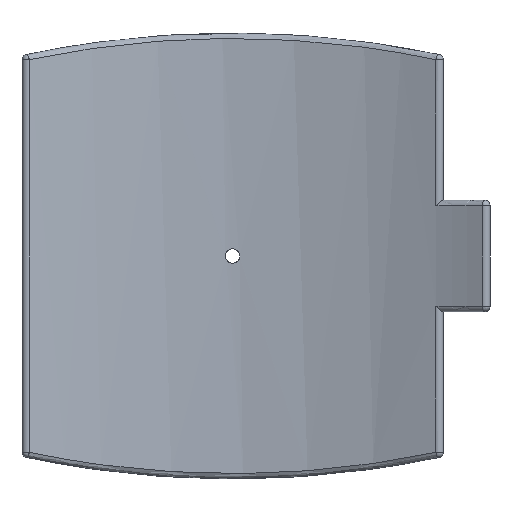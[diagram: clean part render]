
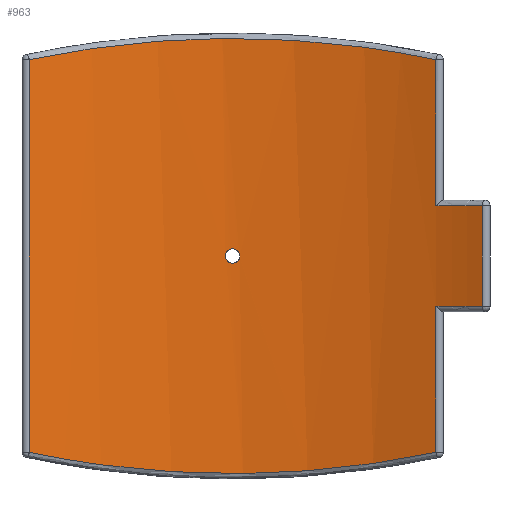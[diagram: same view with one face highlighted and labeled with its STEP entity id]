
A CAD part, front view. The second image highlights one B-rep face of the part: STEP entity #963.
In plain terms, the highlighted cylindrical face has radius 354 mm (diameter 708 mm), a partial arc.
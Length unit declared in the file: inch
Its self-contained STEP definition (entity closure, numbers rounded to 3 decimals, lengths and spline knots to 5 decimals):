
#45=B_SPLINE_CURVE_WITH_KNOTS('',3,(#1838,#1839,#1840,#1841,#1842,#1843,
#1844,#1845,#1846,#1847,#1848,#1849,#1850,#1851,#1852,#1853,#1854,#1855,
#1856,#1857,#1858,#1859,#1860,#1861,#1862,#1863,#1864,#1865,#1866,#1867,
#1868,#1869,#1870,#1871),.UNSPECIFIED.,.T.,.F.,(4,2,2,2,2,2,2,2,2,2,2,2,
2,2,2,2,4),(0.,0.18081,0.36162,0.54244,0.72325,
0.90406,1.08487,1.26568,1.4465,1.62731,
1.80812,1.98893,2.16974,2.35056,2.53137,
2.71218,2.89299),.UNSPECIFIED.);
#51=B_SPLINE_CURVE_WITH_KNOTS('',3,(#2223,#2224,#2225,#2226,#2227,#2228,
#2229,#2230,#2231,#2232),.UNSPECIFIED.,.F.,.F.,(4,1,1,1,1,1,1,4),(-33.25362,
-29.17303,-25.09244,-21.01185,-16.93126,
-12.85066,-8.77007,-4.68948),.UNSPECIFIED.);
#57=B_SPLINE_CURVE_WITH_KNOTS('',3,(#2367,#2368,#2369,#2370,#2371,#2372,
#2373,#2374,#2375,#2376),.UNSPECIFIED.,.F.,.F.,(4,1,1,1,1,1,1,4),(-30.29532,
-26.21473,-22.13413,-18.05354,-13.97295,-9.89236,
-5.81177,-1.73118),.UNSPECIFIED.);
#78=LINE('',#2162,#118);
#82=LINE('',#2247,#122);
#89=LINE('',#2286,#129);
#94=LINE('',#2395,#134);
#118=VECTOR('',#1327,0.3937);
#122=VECTOR('',#1343,0.3937);
#129=VECTOR('',#1366,0.3937);
#134=VECTOR('',#1391,0.3937);
#166=CYLINDRICAL_SURFACE('',#1114,13.93701);
#177=FACE_BOUND('',#332,.T.);
#255=FACE_OUTER_BOUND('',#331,.T.);
#331=EDGE_LOOP('',(#875,#876,#877,#878,#879,#880,#881,#882));
#332=EDGE_LOOP('',(#883));
#398=CIRCLE('',#1089,13.93701);
#401=CIRCLE('',#1097,13.93701);
#433=VERTEX_POINT('',#1836);
#451=VERTEX_POINT('',#1975);
#456=VERTEX_POINT('',#2051);
#465=VERTEX_POINT('',#2077);
#466=VERTEX_POINT('',#2081);
#471=VERTEX_POINT('',#2154);
#476=VERTEX_POINT('',#2170);
#478=VERTEX_POINT('',#2246);
#482=VERTEX_POINT('',#2290);
#520=EDGE_CURVE('',#433,#433,#45,.T.);
#580=EDGE_CURVE('',#471,#465,#78,.T.);
#586=EDGE_CURVE('',#466,#476,#51,.T.);
#589=EDGE_CURVE('',#476,#478,#82,.T.);
#592=EDGE_CURVE('',#478,#471,#398,.T.);
#601=EDGE_CURVE('',#456,#466,#89,.T.);
#603=EDGE_CURVE('',#465,#482,#401,.T.);
#611=EDGE_CURVE('',#451,#456,#57,.T.);
#615=EDGE_CURVE('',#482,#451,#94,.T.);
#875=ORIENTED_EDGE('',*,*,#586,.F.);
#876=ORIENTED_EDGE('',*,*,#601,.F.);
#877=ORIENTED_EDGE('',*,*,#611,.F.);
#878=ORIENTED_EDGE('',*,*,#615,.F.);
#879=ORIENTED_EDGE('',*,*,#603,.F.);
#880=ORIENTED_EDGE('',*,*,#580,.F.);
#881=ORIENTED_EDGE('',*,*,#592,.F.);
#882=ORIENTED_EDGE('',*,*,#589,.F.);
#883=ORIENTED_EDGE('',*,*,#520,.T.);
#963=ADVANCED_FACE('',(#255,#177),#166,.F.);
#1089=AXIS2_PLACEMENT_3D('',#2263,#1348,#1349);
#1097=AXIS2_PLACEMENT_3D('',#2291,#1371,#1372);
#1114=AXIS2_PLACEMENT_3D('',#2411,#1415,#1416);
#1327=DIRECTION('',(0.,0.,-1.));
#1343=DIRECTION('',(0.,0.,-1.));
#1348=DIRECTION('center_axis',(0.,0.,-1.));
#1349=DIRECTION('ref_axis',(0.445,0.895,0.));
#1366=DIRECTION('',(0.,0.,1.));
#1371=DIRECTION('center_axis',(0.,0.,1.));
#1372=DIRECTION('ref_axis',(0.445,0.895,0.));
#1391=DIRECTION('',(0.,0.,-1.));
#1415=DIRECTION('center_axis',(0.,0.,1.));
#1416=DIRECTION('ref_axis',(-1.,0.,0.));
#1836=CARTESIAN_POINT('',(0.18898,13.93573,0.));
#1838=CARTESIAN_POINT('Ctrl Pts',(0.18898,13.93573,0.));
#1839=CARTESIAN_POINT('Ctrl Pts',(0.18898,13.93573,-0.02373));
#1840=CARTESIAN_POINT('Ctrl Pts',(0.18423,13.93579,-0.04904));
#1841=CARTESIAN_POINT('Ctrl Pts',(0.16495,13.93604,-0.0956));
#1842=CARTESIAN_POINT('Ctrl Pts',(0.1504,13.93621,-0.11685));
#1843=CARTESIAN_POINT('Ctrl Pts',(0.11685,13.93653,-0.1504));
#1844=CARTESIAN_POINT('Ctrl Pts',(0.0956,13.9367,-0.16495));
#1845=CARTESIAN_POINT('Ctrl Pts',(0.04904,13.93694,-0.18423));
#1846=CARTESIAN_POINT('Ctrl Pts',(0.02373,13.93701,-0.18898));
#1847=CARTESIAN_POINT('Ctrl Pts',(-0.02373,13.93701,-0.18898));
#1848=CARTESIAN_POINT('Ctrl Pts',(-0.04904,13.93694,
-0.18423));
#1849=CARTESIAN_POINT('Ctrl Pts',(-0.0956,13.9367,
-0.16495));
#1850=CARTESIAN_POINT('Ctrl Pts',(-0.11685,13.93653,-0.1504));
#1851=CARTESIAN_POINT('Ctrl Pts',(-0.1504,13.93621,-0.11685));
#1852=CARTESIAN_POINT('Ctrl Pts',(-0.16495,13.93604,-0.0956));
#1853=CARTESIAN_POINT('Ctrl Pts',(-0.18423,13.93579,-0.04904));
#1854=CARTESIAN_POINT('Ctrl Pts',(-0.18898,13.93573,-0.02373));
#1855=CARTESIAN_POINT('Ctrl Pts',(-0.18898,13.93573,0.02373));
#1856=CARTESIAN_POINT('Ctrl Pts',(-0.18423,13.93579,0.04904));
#1857=CARTESIAN_POINT('Ctrl Pts',(-0.16495,13.93604,0.0956));
#1858=CARTESIAN_POINT('Ctrl Pts',(-0.1504,13.93621,0.11685));
#1859=CARTESIAN_POINT('Ctrl Pts',(-0.11685,13.93653,0.1504));
#1860=CARTESIAN_POINT('Ctrl Pts',(-0.0956,13.9367,
0.16495));
#1861=CARTESIAN_POINT('Ctrl Pts',(-0.04904,13.93694,
0.18423));
#1862=CARTESIAN_POINT('Ctrl Pts',(-0.02373,13.93701,0.18898));
#1863=CARTESIAN_POINT('Ctrl Pts',(0.02373,13.93701,0.18898));
#1864=CARTESIAN_POINT('Ctrl Pts',(0.04904,13.93694,0.18423));
#1865=CARTESIAN_POINT('Ctrl Pts',(0.0956,13.9367,0.16495));
#1866=CARTESIAN_POINT('Ctrl Pts',(0.11685,13.93653,0.1504));
#1867=CARTESIAN_POINT('Ctrl Pts',(0.1504,13.93621,0.11685));
#1868=CARTESIAN_POINT('Ctrl Pts',(0.16495,13.93604,0.0956));
#1869=CARTESIAN_POINT('Ctrl Pts',(0.18423,13.93579,0.04904));
#1870=CARTESIAN_POINT('Ctrl Pts',(0.18898,13.93573,0.02373));
#1871=CARTESIAN_POINT('Ctrl Pts',(0.18898,13.93573,0.));
#1975=CARTESIAN_POINT('',(5.38676,12.85391,-5.20156));
#2051=CARTESIAN_POINT('',(-5.38676,12.85391,-5.20156));
#2077=CARTESIAN_POINT('',(6.61449,12.26739,-1.33688));
#2081=CARTESIAN_POINT('',(-5.38676,12.85391,5.20156));
#2154=CARTESIAN_POINT('',(6.61449,12.26739,1.33688));
#2162=CARTESIAN_POINT('',(6.61449,12.26739,0.));
#2170=CARTESIAN_POINT('',(5.38676,12.85391,5.20156));
#2223=CARTESIAN_POINT('Ctrl Pts',(-5.38676,12.85391,5.20156));
#2224=CARTESIAN_POINT('Ctrl Pts',(-4.90664,13.05512,5.3032));
#2225=CARTESIAN_POINT('Ctrl Pts',(-3.91976,13.40537,5.48366));
#2226=CARTESIAN_POINT('Ctrl Pts',(-2.37794,13.7632,5.67257));
#2227=CARTESIAN_POINT('Ctrl Pts',(-0.79692,13.94456,5.76966));
#2228=CARTESIAN_POINT('Ctrl Pts',(0.79693,13.94457,5.76968));
#2229=CARTESIAN_POINT('Ctrl Pts',(2.37781,13.76321,5.67256));
#2230=CARTESIAN_POINT('Ctrl Pts',(3.91977,13.40538,5.48367));
#2231=CARTESIAN_POINT('Ctrl Pts',(4.9066,13.05513,5.30321));
#2232=CARTESIAN_POINT('Ctrl Pts',(5.38676,12.85391,5.20156));
#2246=CARTESIAN_POINT('',(5.38676,12.85391,1.33688));
#2247=CARTESIAN_POINT('',(5.38676,12.85391,0.));
#2263=CARTESIAN_POINT('Origin',(0.,0.,1.33688));
#2286=CARTESIAN_POINT('',(-5.38676,12.85391,0.));
#2290=CARTESIAN_POINT('',(5.38676,12.85391,-1.33688));
#2291=CARTESIAN_POINT('Origin',(0.,0.,-1.33688));
#2367=CARTESIAN_POINT('Ctrl Pts',(5.38676,12.85391,-5.20156));
#2368=CARTESIAN_POINT('Ctrl Pts',(4.9066,13.05513,-5.30321));
#2369=CARTESIAN_POINT('Ctrl Pts',(3.91976,13.40537,-5.48367));
#2370=CARTESIAN_POINT('Ctrl Pts',(2.37782,13.76321,-5.67257));
#2371=CARTESIAN_POINT('Ctrl Pts',(0.79692,13.94456,-5.76968));
#2372=CARTESIAN_POINT('Ctrl Pts',(-0.79692,13.94456,-5.76966));
#2373=CARTESIAN_POINT('Ctrl Pts',(-2.37794,13.7632,-5.67256));
#2374=CARTESIAN_POINT('Ctrl Pts',(-3.91976,13.40537,-5.48366));
#2375=CARTESIAN_POINT('Ctrl Pts',(-4.90664,13.05512,-5.3032));
#2376=CARTESIAN_POINT('Ctrl Pts',(-5.38676,12.85391,-5.20156));
#2395=CARTESIAN_POINT('',(5.38676,12.85391,0.));
#2411=CARTESIAN_POINT('Origin',(0.,0.,0.));
